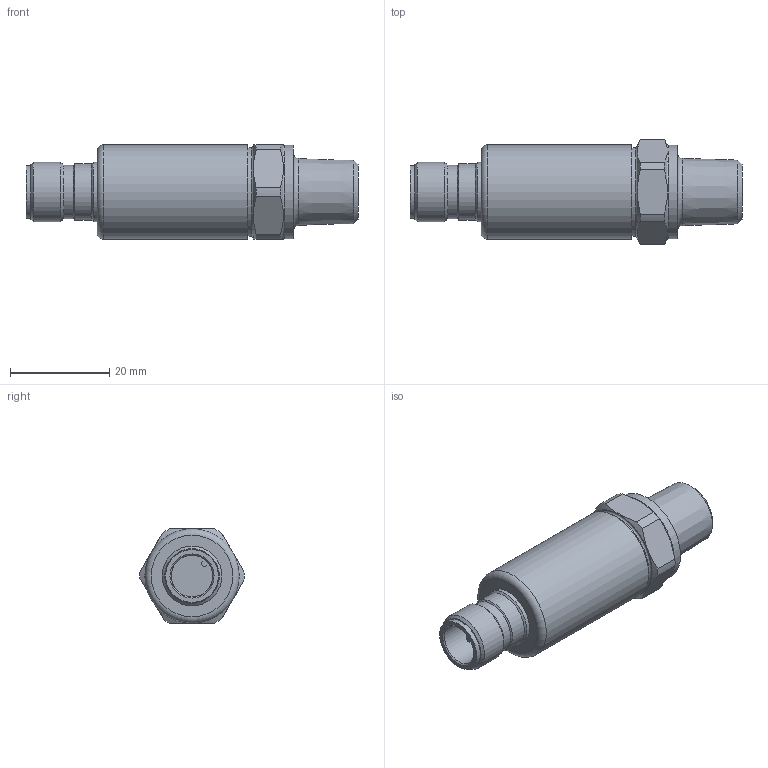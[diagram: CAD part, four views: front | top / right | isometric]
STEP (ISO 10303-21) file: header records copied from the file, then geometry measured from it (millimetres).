
FILE_DESCRIPTION( ( 'STEP AP203' ), '1' );
FILE_NAME( 'p:/temp/worker_39/temp/app_44_02018091713135713926101192d056f_000000_00_00_000000/format_0/PV7700.stp', '2018-09-17T11:13:57', ( '' ), ( '' ), ' ', 'PARTsolutions', ' ' );
FILE_SCHEMA( ( 'CONFIG_CONTROL_DESIGN' ) );
Length unit declared in the file: millimetre
Products named in the file (1): _PV7700
Bounding box: 66.85 x 21 x 19 mm (x, y, z)
Volume: 13818.2 mm3; surface area: 4547.1 mm2
Topology: 1 solids, 1 shells, 63 faces, 141 edges, 87 vertices
Faces by surface type: cylinder 21, plane 19, cone 18, torus 5
Full cylindrical faces by diameter (mm): 1 x1, 2 x1, 2.6 x1, 3 x1, 4.2 x1, 8.4 x1, 10.6 x1, 10.8 x1, 11.3 x1, 12 x2, 17.8 x1, 19 x1
Entity records: 1753 total; most frequent: CARTESIAN_POINT 432, DIRECTION 273, ORIENTED_EDGE 222, AXIS2_PLACEMENT_3D 124, EDGE_CURVE 111, EDGE_LOOP 98, VERTEX_POINT 85, FACE_OUTER_BOUND 80
